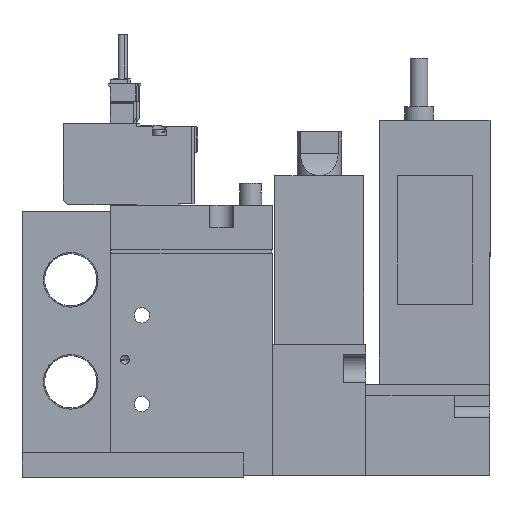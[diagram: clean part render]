
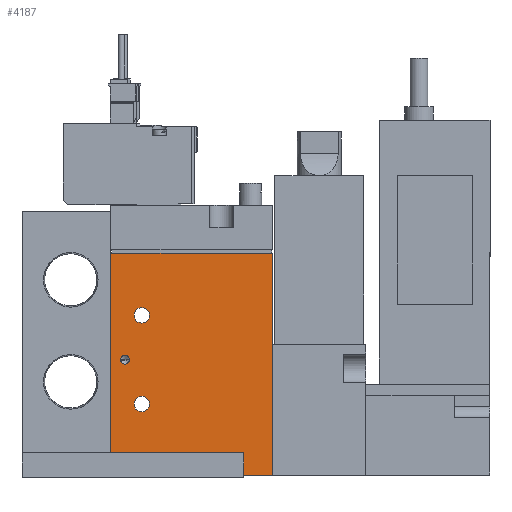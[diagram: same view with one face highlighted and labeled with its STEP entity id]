
A CAD part, left-side view. The second image highlights one B-rep face of the part: STEP entity #4187.
In plain terms, the highlighted planar face has unit normal (-1, 0, 0) as drawn and (1, 0, 0) by its records, which use the part's own axes.
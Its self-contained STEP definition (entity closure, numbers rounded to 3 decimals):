
#4187=ADVANCED_FACE('',(#6853,#6854,#6855,#6856),#6857,.F.);
#6853=FACE_BOUND('',#11480,.T.);
#6854=FACE_BOUND('',#11481,.T.);
#6855=FACE_BOUND('',#11482,.T.);
#6856=FACE_OUTER_BOUND('',#11483,.T.);
#6857=PLANE('',#11484);
#11480=EDGE_LOOP('',(#18158));
#11481=EDGE_LOOP('',(#18159));
#11482=EDGE_LOOP('',(#18160));
#11483=EDGE_LOOP('',(#18161,#18162,#18163,#18164));
#11484=AXIS2_PLACEMENT_3D('',#18165,#18166,#18167);
#18158=ORIENTED_EDGE('',*,*,#31716,.F.);
#18159=ORIENTED_EDGE('',*,*,#31717,.T.);
#18160=ORIENTED_EDGE('',*,*,#31714,.T.);
#18161=ORIENTED_EDGE('',*,*,#31705,.T.);
#18162=ORIENTED_EDGE('',*,*,#31713,.F.);
#18163=ORIENTED_EDGE('',*,*,#31698,.F.);
#18164=ORIENTED_EDGE('',*,*,#31715,.T.);
#18165=CARTESIAN_POINT('',(8.5,-19.444,50.0));
#18166=DIRECTION('',(-1.0,0.0,0.0));
#18167=DIRECTION('',(0.0,0.0,1.0));
#31698=EDGE_CURVE('',#37199,#37201,#37202,.T.);
#31705=EDGE_CURVE('',#37215,#37213,#37216,.T.);
#31713=EDGE_CURVE('',#37201,#37213,#37228,.T.);
#31714=EDGE_CURVE('',#37229,#37229,#37230,.T.);
#31715=EDGE_CURVE('',#37199,#37215,#37231,.T.);
#31716=EDGE_CURVE('',#37232,#37232,#37233,.T.);
#31717=EDGE_CURVE('',#37234,#37234,#37235,.T.);
#37199=VERTEX_POINT('',#46336);
#37201=VERTEX_POINT('',#46339);
#37202=LINE('',#46340,#46341);
#37213=VERTEX_POINT('',#46354);
#37215=VERTEX_POINT('',#46357);
#37216=LINE('',#46358,#46359);
#37228=LINE('',#46374,#46375);
#37229=VERTEX_POINT('',#46376);
#37230=CIRCLE('',#46377,1.75);
#37231=LINE('',#46378,#46379);
#37232=VERTEX_POINT('',#46380);
#37233=CIRCLE('',#46381,1.0);
#37234=VERTEX_POINT('',#46382);
#37235=CIRCLE('',#46383,1.75);
#46336=CARTESIAN_POINT('',(8.5,-19.444,50.0));
#46339=CARTESIAN_POINT('',(8.5,17.056,50.0));
#46340=CARTESIAN_POINT('',(8.5,-19.444,50.0));
#46341=VECTOR('',#57712,1.0);
#46354=CARTESIAN_POINT('',(8.5,17.056,0.0));
#46357=CARTESIAN_POINT('',(8.5,-19.444,0.0));
#46358=CARTESIAN_POINT('',(8.5,-19.444,0.0));
#46359=VECTOR('',#57725,1.0);
#46374=CARTESIAN_POINT('',(8.5,17.056,50.0));
#46375=VECTOR('',#57741,1.0);
#46376=CARTESIAN_POINT('',(8.5,-10.694,16.0));
#46377=AXIS2_PLACEMENT_3D('',#57742,#57743,#57744);
#46378=CARTESIAN_POINT('',(8.5,-19.444,50.0));
#46379=VECTOR('',#57745,1.0);
#46380=CARTESIAN_POINT('',(8.5,-17.244,26.0));
#46381=AXIS2_PLACEMENT_3D('',#57746,#57747,#57748);
#46382=CARTESIAN_POINT('',(8.5,-10.694,36.0));
#46383=AXIS2_PLACEMENT_3D('',#57749,#57750,#57751);
#57712=DIRECTION('',(0.0,1.0,0.0));
#57725=DIRECTION('',(0.0,1.0,0.0));
#57741=DIRECTION('',(0.0,0.0,-1.0));
#57742=CARTESIAN_POINT('',(8.5,-12.444,16.0));
#57743=DIRECTION('',(-1.0,0.0,0.0));
#57744=DIRECTION('',(0.0,1.0,0.0));
#57745=DIRECTION('',(0.0,0.0,-1.0));
#57746=CARTESIAN_POINT('',(8.5,-16.244,26.0));
#57747=DIRECTION('',(1.0,0.,0.0));
#57748=DIRECTION('',(0.,-1.0,0.0));
#57749=CARTESIAN_POINT('',(8.5,-12.444,36.0));
#57750=DIRECTION('',(-1.0,0.0,0.0));
#57751=DIRECTION('',(0.0,1.0,0.0));
